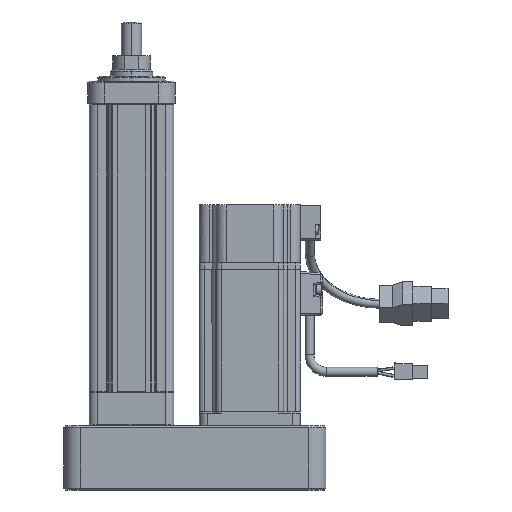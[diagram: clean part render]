
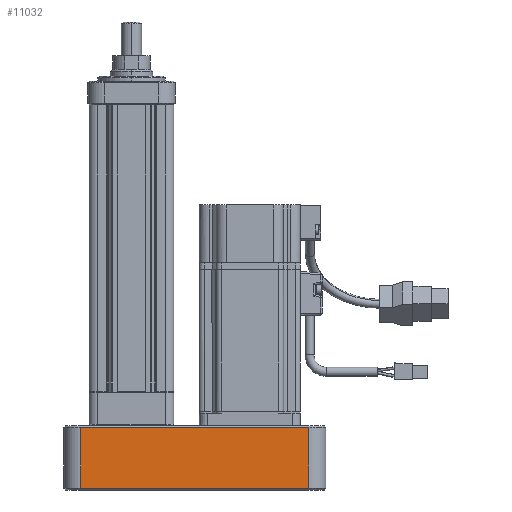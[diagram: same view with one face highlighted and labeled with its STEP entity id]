
A CAD part, left-side view. The second image highlights one B-rep face of the part: STEP entity #11032.
In plain terms, the highlighted planar face has unit normal (-1, 0, 0).
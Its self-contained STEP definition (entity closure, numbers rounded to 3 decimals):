
#95 = ORIENTED_EDGE ( 'NONE', *, *, #7233, .T. ) ;
#1243 = VERTEX_POINT ( 'NONE', #21149 ) ;
#2275 = DIRECTION ( 'NONE',  ( 0., -1., 0. ) ) ;
#2722 = DIRECTION ( 'NONE',  ( 0., 0., -1. ) ) ;
#3041 = DIRECTION ( 'NONE',  ( 0., 1., 0. ) ) ;
#3192 = CARTESIAN_POINT ( 'NONE',  ( -40., 30., -21. ) ) ;
#3297 = DIRECTION ( 'NONE',  ( 0., 0., 1. ) ) ;
#3720 = LINE ( 'NONE', #12824, #5528 ) ;
#3808 = LINE ( 'NONE', #11433, #18098 ) ;
#4485 = DIRECTION ( 'NONE',  ( 1., 0., 0. ) ) ;
#5038 = ORIENTED_EDGE ( 'NONE', *, *, #11085, .T. ) ;
#5528 = VECTOR ( 'NONE', #3041, 1000. ) ;
#6428 = PLANE ( 'NONE',  #12820 ) ;
#7189 = VERTEX_POINT ( 'NONE', #20494 ) ;
#7233 = EDGE_CURVE ( 'NONE', #16722, #7189, #10226, .T. ) ;
#7954 = VERTEX_POINT ( 'NONE', #12175 ) ;
#8180 = VECTOR ( 'NONE', #2275, 1000. ) ;
#8566 = EDGE_LOOP ( 'NONE', ( #20174, #5038, #95, #18303 ) ) ;
#8697 = CARTESIAN_POINT ( 'NONE',  ( -40., -105., -57. ) ) ;
#10226 = LINE ( 'NONE', #12503, #17384 ) ;
#11032 = ADVANCED_FACE ( 'NONE', ( #14677 ), #6428, .F. ) ;
#11085 = EDGE_CURVE ( 'NONE', #7954, #16722, #3720, .T. ) ;
#11433 = CARTESIAN_POINT ( 'NONE',  ( -40., -105., -58. ) ) ;
#11776 = LINE ( 'NONE', #8697, #8180 ) ;
#12175 = CARTESIAN_POINT ( 'NONE',  ( -40., -105., -21. ) ) ;
#12503 = CARTESIAN_POINT ( 'NONE',  ( -40., 30., -58. ) ) ;
#12820 = AXIS2_PLACEMENT_3D ( 'NONE', #17616, #4485, #21099 ) ;
#12824 = CARTESIAN_POINT ( 'NONE',  ( -40., 40., -21. ) ) ;
#12879 = EDGE_CURVE ( 'NONE', #7189, #1243, #11776, .T. ) ;
#14125 = EDGE_CURVE ( 'NONE', #1243, #7954, #3808, .T. ) ;
#14677 = FACE_OUTER_BOUND ( 'NONE', #8566, .T. ) ;
#16722 = VERTEX_POINT ( 'NONE', #3192 ) ;
#17384 = VECTOR ( 'NONE', #2722, 1000. ) ;
#17616 = CARTESIAN_POINT ( 'NONE',  ( -40., 40., -58. ) ) ;
#18098 = VECTOR ( 'NONE', #3297, 1000. ) ;
#18303 = ORIENTED_EDGE ( 'NONE', *, *, #12879, .T. ) ;
#20174 = ORIENTED_EDGE ( 'NONE', *, *, #14125, .T. ) ;
#20494 = CARTESIAN_POINT ( 'NONE',  ( -40., 30., -57. ) ) ;
#21099 = DIRECTION ( 'NONE',  ( 0., 1., 0. ) ) ;
#21149 = CARTESIAN_POINT ( 'NONE',  ( -40., -105., -57. ) ) ;
